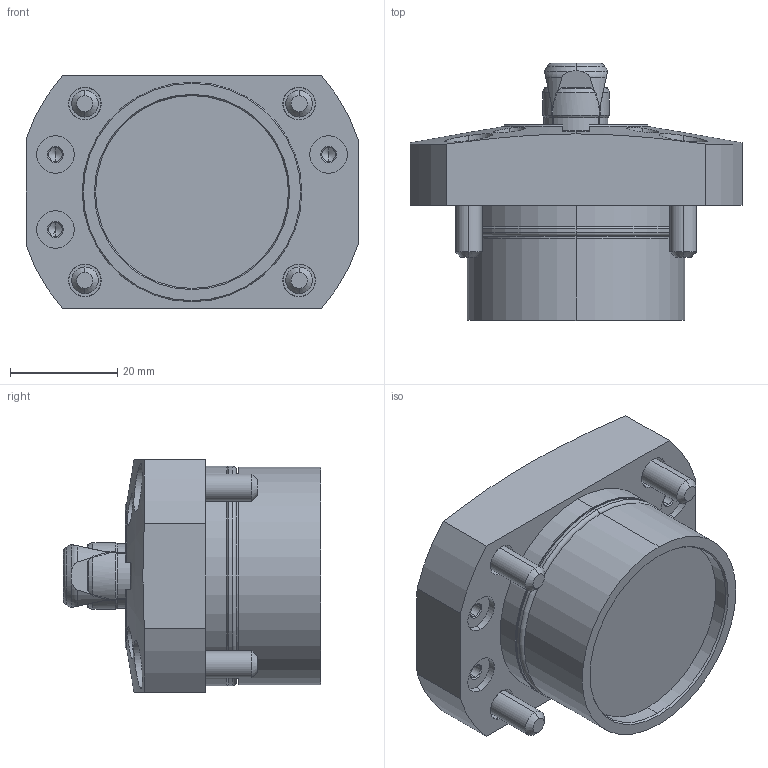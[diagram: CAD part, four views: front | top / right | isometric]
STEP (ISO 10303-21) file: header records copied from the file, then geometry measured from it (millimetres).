
FILE_DESCRIPTION (( 'STEP AP203' ), '1' );
FILE_NAME ('SFH2130_N.STEP', '2010-11-03T23:14:22', ( ' ' ), ( ' ' ), 'SwSTEP 2.0', 'SolidWorks 2010', '' );
FILE_SCHEMA (( 'CONFIG_CONTROL_DESIGN' ));
Length unit declared in the file: millimetre
Products named in the file (7): φ13_ｽﾘｰﾌﾞ-N; 6妏寠晅无倌_M5_16; SFH2130-N_套菁轤礁诎蔬晅; SFH2_钾堇轤O剌皋晅; 冇13_郫霓; 6妏寠晅无倌_M3_10; SFH2130_N
Assembly tree (12 placements, depth 2):
  SFH2130_N
    6妏寠晅无倌_M5_16  x4
    SFH2_钾堇轤O剌皋晅
    SFH2130-N_套菁轤礁诎蔬晅
    6妏寠晅无倌_M3_10  x4
    冇13_郫霓
    φ13_ｽﾘｰﾌﾞ-N
Bounding box: 62 x 48 x 43.5 mm (x, y, z)
Volume: 59586 mm3; surface area: 21561.9 mm2
Topology: 16 solids, 16 shells, 480 faces, 979 edges, 542 vertices
Faces by surface type: plane 187, cone 156, cylinder 118, torus 19
Entity records: 9721 total; most frequent: CARTESIAN_POINT 2334, DIRECTION 1438, ORIENTED_EDGE 1286, EDGE_CURVE 643, AXIS2_PLACEMENT_3D 600, VERTEX_POINT 392, EDGE_LOOP 335, ADVANCED_FACE 294
